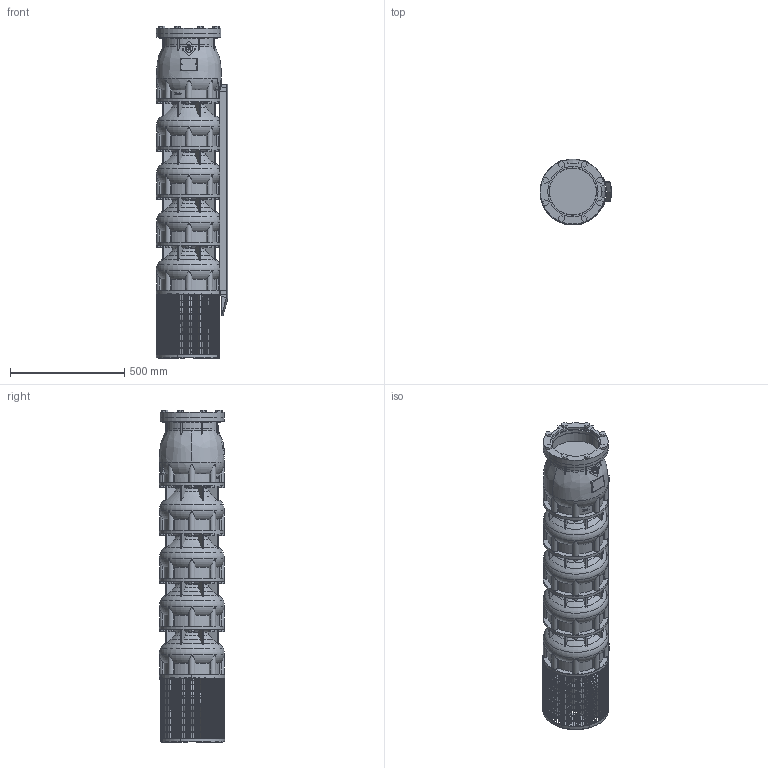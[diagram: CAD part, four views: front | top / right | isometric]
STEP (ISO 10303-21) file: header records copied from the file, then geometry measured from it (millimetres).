
FILE_DESCRIPTION(/* description */ ('-'),/* implementation_level */ '2;1');
FILE_NAME(/* name */ 'VSI344-4-1B_WF_M10-50_DME',/* time_stamp */ '2026-01-21T11:11:02+01:00',/* author */ ('Simonelli M.'),/* organization */ ('Franklin Electric Srl'),/* preprocessor_version */ 'ST-DEVELOPER v18.102',/* originating_system */ 'Solid Edge',/* authorisation */ 'Unknown');
FILE_SCHEMA (('AUTOMOTIVE_DESIGN {1 0 10303 214 3 1 1}'));
Products named in the file (12): VSI344-4-1B_WF_M10-50_DME; VSI344-454_testata; VSI344-454_supporto; VSI344-454_filtro_A; VSI344-454_filtro_B; VSI344-454_terminale_top_copricavo_medio; VSI344-454_terminale_bottom_copricavo_medio; MID 344-4; VSI344_diffusore; M5X8_UNI7687; VSI184-254_giunto_10×12; VSI344-454_flangia_testata
Assembly tree (23 placements, depth 2):
  VSI344-4-1B_WF_M10-50_DME
    VSI344-454_testata
    VSI344-454_supporto
    VSI344-454_filtro_A
    VSI344-454_filtro_B
    VSI344-454_terminale_top_copricavo_medio
    VSI344-454_terminale_bottom_copricavo_medio
    MID 344-4
    VSI344_diffusore  x4
    M5X8_UNI7687  x10
    VSI184-254_giunto_10×12
    VSI344-454_flangia_testata
Bounding box: 314.3 x 286 x 1455 mm (x, y, z)
Volume: 58626712.7 mm3; surface area: 3306936.2 mm2
Topology: 88 solids, 88 shells, 4347 faces, 12233 edges, 8127 vertices
Faces by surface type: plane 3484, cylinder 484, torus 261, cone 93, bspline 15, sphere 10
Full cylindrical faces by diameter (mm): 5 x10, 16 x8, 35 x1, 65 x1, 79 x1, 150 x1, 207 x1, 220.5 x1, 285 x4
Entity records: 124577 total; most frequent: CARTESIAN_POINT 28074, ORIENTED_EDGE 20264, DIRECTION 19364, EDGE_CURVE 10132, VERTEX_POINT 6757, AXIS2_PLACEMENT_3D 6540, LINE 6284, VECTOR 6284
